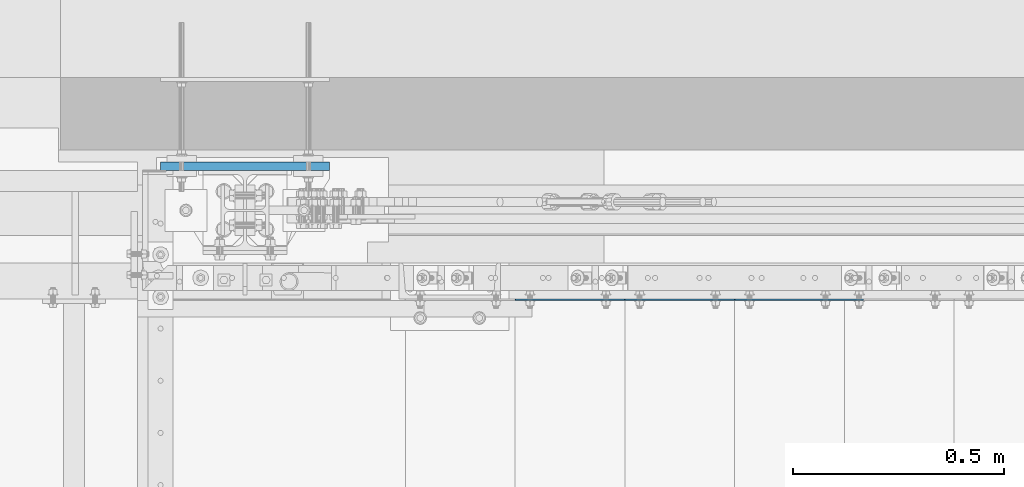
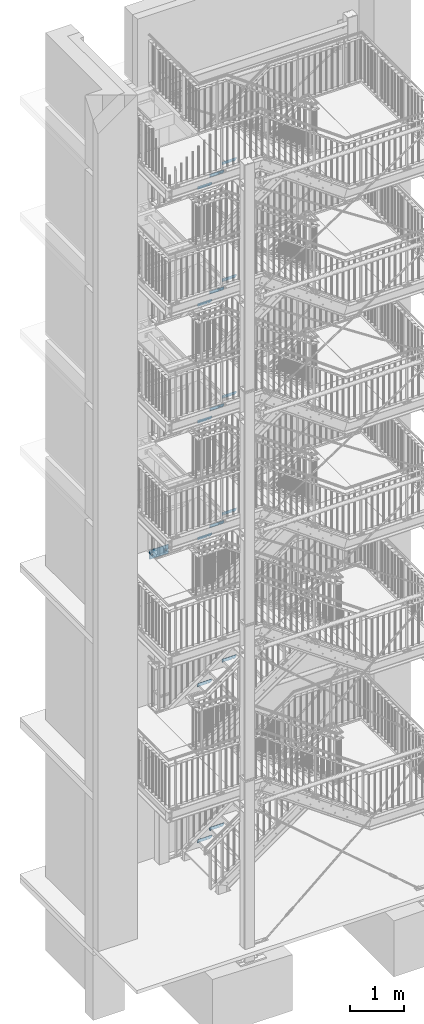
# One storey, part 190 of 821: 17 plates, 34 openings.
"""IFC2X3 building model written with IfcOpenShell, lengths in millimetres."""

from ifc_helpers import new_model, entity, si_unit, converted_unit, point, frame, frame_2d, origin, origin_with_axes, origin_2d_with_axis, place, context, project, spatial, polyline, circle_curve, line_curve, trimmed, segment, composite_curve, circle, outline, extrude, material, layer, layer_set, element, save


model = new_model("IFC2X3")

# Units and contexts
model_context = context("Model", 3, precision=1e-09, world=origin_with_axes())
ifc_project = project(units=[si_unit("LENGTHUNIT", "METRE", prefix="MILLI"), si_unit("AREAUNIT", "SQUARE_METRE"), si_unit("VOLUMEUNIT", "CUBIC_METRE"), converted_unit("PLANEANGLEUNIT", "DEGREE", entity("IfcPlaneAngleMeasure", 0.01745329), si_unit("PLANEANGLEUNIT", "RADIAN"), dimensions=[0, 0, 0, 0, 0, 0, 0])], contexts=[model_context])

# Site, building, storey
site_placement = place(None, origin_with_axes())
site = spatial("IfcSite", under=ifc_project, at=site_placement, Name="Cnopf'sche Kinderklinik", CompositionType="ELEMENT")
building_placement = place(site_placement, origin_with_axes())
building = spatial("IfcBuilding", under=site, at=building_placement, Name="Struktur 1", CompositionType="ELEMENT")
storey_placement = place(building_placement, origin_with_axes())
storey = spatial("IfcBuildingStorey", under=building, at=storey_placement, Name="Default Storey", CompositionType="ELEMENT", Elevation=0.0)

# Plate, openings
ifc_material = material(Name="S235JR")
ifc_layer_1 = layer(ifc_material, 3.0)
ifc_layer_set_1 = layer_set([ifc_layer_1], Name="S235JR")
plate_1_placement = place(None, frame((5756.713402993, 7306.736971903, 10367.2857148), z_axis=(0.0, -1.0, 0.0), x_axis=(0.0, 0.0, -1.0)))
plate_1 = element("IfcPlate", 1, at=plate_1_placement, inside=storey, material=ifc_layer_set_1, Name="Grate_Step#9", ObjectType="Grate_Step#9", context=model_context, shape_type="SweptSolid", body=[
    extrude(outline(polyline([(0.0, 0.0), (70.0, 0.0), (70.0, 275.0), (40.0, 305.0), (0.0, 305.0), (0.0, 0.0)])), origin_with_axes(), (0.0, 0.0, 1.0), 3.0),
])
opening_1_placement = place(plate_1_placement, frame((55.0, 215.0, 3.5), z_axis=(0.0, 0.0, -1.0), x_axis=(0.0, 1.0, 0.0)))
element("IfcOpeningElement", 2, at=opening_1_placement, cuts=plate_1, ObjectType="Opening", context=model_context, shape_type="SweptSolid", body=[
    extrude(outline(composite_curve([segment(trimmed(line_curve((-9.5, -7.001), (1.0, 0.0), 19.0), [point((-9.5, -7.001))], [point((9.5, -7.001))], True, "CARTESIAN"), True, "CONTINUOUS"), segment(trimmed(circle_curve(frame_2d((9.5, 0.0), x_axis=(1.0, 0.0)), 7.001), [point((9.5, -7.001))], [point((9.5, 7.001))], True, "CARTESIAN"), True, "CONTINUOUS"), segment(trimmed(line_curve((9.5, 7.001), (-1.0, 0.0), 19.0), [point((9.5, 7.001))], [point((-9.5, 7.001))], True, "CARTESIAN"), True, "CONTINUOUS"), segment(trimmed(circle_curve(frame_2d((-9.5, 0.0), x_axis=(1.0, 0.0)), 7.001), [point((-9.5, 7.001))], [point((-9.5, -7.001))], True, "CARTESIAN"), True, "CONTINUOUS")], self_intersect=False)), origin(), (0.0, 0.0, 1.0), 4.0),
])
opening_2_placement = place(plate_1_placement, frame((55.0, 35.0, 3.5), z_axis=(0.0, 0.0, -1.0), x_axis=(0.0, 1.0, 0.0)))
element("IfcOpeningElement", 3, at=opening_2_placement, cuts=plate_1, ObjectType="Opening", context=model_context, shape_type="SweptSolid", body=[
    extrude(circle(Radius=7.001, at=origin_2d_with_axis()), origin(), (0.0, 0.0, 1.0), 4.0),
])

plate_2_placement = place(None, frame((5496.713402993, 7306.736971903, 10179.6428577), z_axis=(0.0, -1.0, 0.0), x_axis=(0.0, 0.0, -1.0)))
plate_2 = element("IfcPlate", 4, at=plate_2_placement, inside=storey, material=ifc_layer_set_1, Name="Grate_Step#2", ObjectType="Grate_Step#2", context=model_context, shape_type="SweptSolid", body=[
    extrude(outline(polyline([(0.0, 0.0), (70.0, 0.0), (70.0, 275.0), (40.0, 305.0), (0.0, 305.0), (0.0, 0.0)])), origin_with_axes(), (0.0, 0.0, 1.0), 3.0),
])
opening_3_placement = place(plate_2_placement, frame((55.0, 215.0, 3.5), z_axis=(0.0, 0.0, -1.0), x_axis=(0.0, 1.0, 0.0)))
element("IfcOpeningElement", 5, at=opening_3_placement, cuts=plate_2, ObjectType="Opening", context=model_context, shape_type="SweptSolid", body=[
    extrude(outline(composite_curve([segment(trimmed(line_curve((-9.5, -7.001), (1.0, 0.0), 19.0), [point((-9.5, -7.001))], [point((9.5, -7.001))], True, "CARTESIAN"), True, "CONTINUOUS"), segment(trimmed(circle_curve(frame_2d((9.5, 0.0), x_axis=(1.0, 0.0)), 7.001), [point((9.5, -7.001))], [point((9.5, 7.001))], True, "CARTESIAN"), True, "CONTINUOUS"), segment(trimmed(line_curve((9.5, 7.001), (-1.0, 0.0), 19.0), [point((9.5, 7.001))], [point((-9.5, 7.001))], True, "CARTESIAN"), True, "CONTINUOUS"), segment(trimmed(circle_curve(frame_2d((-9.5, 0.0), x_axis=(1.0, 0.0)), 7.001), [point((-9.5, 7.001))], [point((-9.5, -7.001))], True, "CARTESIAN"), True, "CONTINUOUS")], self_intersect=False)), origin(), (0.0, 0.0, 1.0), 4.0),
])
opening_4_placement = place(plate_2_placement, frame((55.0, 35.0, 3.5), z_axis=(0.0, 0.0, -1.0), x_axis=(0.0, 1.0, 0.0)))
element("IfcOpeningElement", 6, at=opening_4_placement, cuts=plate_2, ObjectType="Opening", context=model_context, shape_type="SweptSolid", body=[
    extrude(circle(Radius=7.001, at=origin_2d_with_axis()), origin(), (0.0, 0.0, 1.0), 4.0),
])

plate_3_placement = place(None, frame((6016.713402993, 7306.736971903, 10554.9285719), z_axis=(0.0, -1.0, 0.0), x_axis=(0.0, 0.0, -1.0)))
plate_3 = element("IfcPlate", 7, at=plate_3_placement, inside=storey, material=ifc_layer_set_1, Name="Grate_Step#16", ObjectType="Grate_Step#16", context=model_context, shape_type="SweptSolid", body=[
    extrude(outline(polyline([(0.0, 0.0), (70.0, 0.0), (70.0, 275.0), (40.0, 305.0), (0.0, 305.0), (0.0, 0.0)])), origin_with_axes(), (0.0, 0.0, 1.0), 3.0),
])
opening_5_placement = place(plate_3_placement, frame((55.0, 35.0, 3.5), z_axis=(0.0, 0.0, -1.0), x_axis=(0.0, 1.0, 0.0)))
element("IfcOpeningElement", 8, at=opening_5_placement, cuts=plate_3, ObjectType="Opening", context=model_context, shape_type="SweptSolid", body=[
    extrude(circle(Radius=7.001, at=origin_2d_with_axis()), origin(), (0.0, 0.0, 1.0), 4.0),
])
opening_6_placement = place(plate_3_placement, frame((55.0, 215.0, 3.5), z_axis=(0.0, 0.0, -1.0), x_axis=(0.0, 1.0, 0.0)))
element("IfcOpeningElement", 9, at=opening_6_placement, cuts=plate_3, ObjectType="Opening", context=model_context, shape_type="SweptSolid", body=[
    extrude(outline(composite_curve([segment(trimmed(line_curve((-9.5, -7.001), (1.0, 0.0), 19.0), [point((-9.5, -7.001))], [point((9.5, -7.001))], True, "CARTESIAN"), True, "CONTINUOUS"), segment(trimmed(circle_curve(frame_2d((9.5, 0.0), x_axis=(1.0, 0.0)), 7.001), [point((9.5, -7.001))], [point((9.5, 7.001))], True, "CARTESIAN"), True, "CONTINUOUS"), segment(trimmed(line_curve((9.5, 7.001), (-1.0, 0.0), 19.0), [point((9.5, 7.001))], [point((-9.5, 7.001))], True, "CARTESIAN"), True, "CONTINUOUS"), segment(trimmed(circle_curve(frame_2d((-9.5, 0.0), x_axis=(1.0, 0.0)), 7.001), [point((-9.5, 7.001))], [point((-9.5, -7.001))], True, "CARTESIAN"), True, "CONTINUOUS")], self_intersect=False)), origin(), (0.0, 0.0, 1.0), 4.0),
])

plate_4_placement = place(None, frame((6016.713402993, 7306.736971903, 7924.0), z_axis=(0.0, -1.0, 0.0), x_axis=(0.0, 0.0, -1.0)))
plate_4 = element("IfcPlate", 10, at=plate_4_placement, inside=storey, material=ifc_layer_set_1, Name="Grate_Step#16", ObjectType="Grate_Step#16", context=model_context, shape_type="SweptSolid", body=[
    extrude(outline(polyline([(0.0, 0.0), (70.0, 0.0), (70.0, 275.0), (40.0, 305.0), (0.0, 305.0), (0.0, 0.0)])), origin_with_axes(), (0.0, 0.0, 1.0), 3.0),
])
opening_7_placement = place(plate_4_placement, frame((55.0, 215.0, 3.5), z_axis=(0.0, 0.0, -1.0), x_axis=(0.0, 1.0, 0.0)))
element("IfcOpeningElement", 11, at=opening_7_placement, cuts=plate_4, ObjectType="Opening", context=model_context, shape_type="SweptSolid", body=[
    extrude(outline(composite_curve([segment(trimmed(line_curve((-9.5, -7.001), (1.0, 0.0), 19.0), [point((-9.5, -7.001))], [point((9.5, -7.001))], True, "CARTESIAN"), True, "CONTINUOUS"), segment(trimmed(circle_curve(frame_2d((9.5, 0.0), x_axis=(1.0, 0.0)), 7.001), [point((9.5, -7.001))], [point((9.5, 7.001))], True, "CARTESIAN"), True, "CONTINUOUS"), segment(trimmed(line_curve((9.5, 7.001), (-1.0, 0.0), 19.0), [point((9.5, 7.001))], [point((-9.5, 7.001))], True, "CARTESIAN"), True, "CONTINUOUS"), segment(trimmed(circle_curve(frame_2d((-9.5, 0.0), x_axis=(1.0, 0.0)), 7.001), [point((-9.5, 7.001))], [point((-9.5, -7.001))], True, "CARTESIAN"), True, "CONTINUOUS")], self_intersect=False)), origin(), (0.0, 0.0, 1.0), 4.0),
])
opening_8_placement = place(plate_4_placement, frame((55.0, 35.0, 3.5), z_axis=(0.0, 0.0, -1.0), x_axis=(0.0, 1.0, 0.0)))
element("IfcOpeningElement", 12, at=opening_8_placement, cuts=plate_4, ObjectType="Opening", context=model_context, shape_type="SweptSolid", body=[
    extrude(circle(Radius=7.001, at=origin_2d_with_axis()), origin(), (0.0, 0.0, 1.0), 4.0),
])

plate_5_placement = place(None, frame((5496.713402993, 7306.736971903, 7548.0), z_axis=(0.0, -1.0, 0.0), x_axis=(0.0, 0.0, -1.0)))
plate_5 = element("IfcPlate", 13, at=plate_5_placement, inside=storey, material=ifc_layer_set_1, Name="Grate_Step#2", ObjectType="Grate_Step#2", context=model_context, shape_type="SweptSolid", body=[
    extrude(outline(polyline([(0.0, 0.0), (70.0, 0.0), (70.0, 275.0), (40.0, 305.0), (0.0, 305.0), (0.0, 0.0)])), origin_with_axes(), (0.0, 0.0, 1.0), 3.0),
])
opening_9_placement = place(plate_5_placement, frame((55.0, 35.0, 3.5), z_axis=(0.0, 0.0, -1.0), x_axis=(0.0, 1.0, 0.0)))
element("IfcOpeningElement", 14, at=opening_9_placement, cuts=plate_5, ObjectType="Opening", context=model_context, shape_type="SweptSolid", body=[
    extrude(circle(Radius=7.001, at=origin_2d_with_axis()), origin(), (0.0, 0.0, 1.0), 4.0),
])
opening_10_placement = place(plate_5_placement, frame((55.0, 215.0, 3.5), z_axis=(0.0, 0.0, -1.0), x_axis=(0.0, 1.0, 0.0)))
element("IfcOpeningElement", 15, at=opening_10_placement, cuts=plate_5, ObjectType="Opening", context=model_context, shape_type="SweptSolid", body=[
    extrude(outline(composite_curve([segment(trimmed(line_curve((-9.5, -7.001), (1.0, 0.0), 19.0), [point((-9.5, -7.001))], [point((9.5, -7.001))], True, "CARTESIAN"), True, "CONTINUOUS"), segment(trimmed(circle_curve(frame_2d((9.5, 0.0), x_axis=(1.0, 0.0)), 7.001), [point((9.5, -7.001))], [point((9.5, 7.001))], True, "CARTESIAN"), True, "CONTINUOUS"), segment(trimmed(line_curve((9.5, 7.001), (-1.0, 0.0), 19.0), [point((9.5, 7.001))], [point((-9.5, 7.001))], True, "CARTESIAN"), True, "CONTINUOUS"), segment(trimmed(circle_curve(frame_2d((-9.5, 0.0), x_axis=(1.0, 0.0)), 7.001), [point((-9.5, 7.001))], [point((-9.5, -7.001))], True, "CARTESIAN"), True, "CONTINUOUS")], self_intersect=False)), origin(), (0.0, 0.0, 1.0), 4.0),
])

plate_6_placement = place(None, frame((5756.713402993, 7306.736971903, 7736.0), z_axis=(0.0, -1.0, 0.0), x_axis=(0.0, 0.0, -1.0)))
plate_6 = element("IfcPlate", 16, at=plate_6_placement, inside=storey, material=ifc_layer_set_1, Name="Grate_Step#9", ObjectType="Grate_Step#9", context=model_context, shape_type="SweptSolid", body=[
    extrude(outline(polyline([(0.0, 0.0), (70.0, 0.0), (70.0, 275.0), (40.0, 305.0), (0.0, 305.0), (0.0, 0.0)])), origin_with_axes(), (0.0, 0.0, 1.0), 3.0),
])
opening_11_placement = place(plate_6_placement, frame((55.0, 215.0, 3.5), z_axis=(0.0, 0.0, -1.0), x_axis=(0.0, 1.0, 0.0)))
element("IfcOpeningElement", 17, at=opening_11_placement, cuts=plate_6, ObjectType="Opening", context=model_context, shape_type="SweptSolid", body=[
    extrude(outline(composite_curve([segment(trimmed(line_curve((-9.5, -7.001), (1.0, 0.0), 19.0), [point((-9.5, -7.001))], [point((9.5, -7.001))], True, "CARTESIAN"), True, "CONTINUOUS"), segment(trimmed(circle_curve(frame_2d((9.5, 0.0), x_axis=(1.0, 0.0)), 7.001), [point((9.5, -7.001))], [point((9.5, 7.001))], True, "CARTESIAN"), True, "CONTINUOUS"), segment(trimmed(line_curve((9.5, 7.001), (-1.0, 0.0), 19.0), [point((9.5, 7.001))], [point((-9.5, 7.001))], True, "CARTESIAN"), True, "CONTINUOUS"), segment(trimmed(circle_curve(frame_2d((-9.5, 0.0), x_axis=(1.0, 0.0)), 7.001), [point((-9.5, 7.001))], [point((-9.5, -7.001))], True, "CARTESIAN"), True, "CONTINUOUS")], self_intersect=False)), origin(), (0.0, 0.0, 1.0), 4.0),
])
opening_12_placement = place(plate_6_placement, frame((55.0, 35.0, 3.5), z_axis=(0.0, 0.0, -1.0), x_axis=(0.0, 1.0, 0.0)))
element("IfcOpeningElement", 18, at=opening_12_placement, cuts=plate_6, ObjectType="Opening", context=model_context, shape_type="SweptSolid", body=[
    extrude(circle(Radius=7.001, at=origin_2d_with_axis()), origin(), (0.0, 0.0, 1.0), 4.0),
])

plate_7_placement = place(None, frame((6016.713402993, 7306.736971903, 13183.6428573), z_axis=(0.0, -1.0, 0.0), x_axis=(0.0, 0.0, -1.0)))
plate_7 = element("IfcPlate", 19, at=plate_7_placement, inside=storey, material=ifc_layer_set_1, Name="Grate_Step#16", ObjectType="Grate_Step#16", context=model_context, shape_type="SweptSolid", body=[
    extrude(outline(polyline([(0.0, 0.0), (70.0, 0.0), (70.0, 275.0), (40.0, 305.0), (0.0, 305.0), (0.0, 0.0)])), origin_with_axes(), (0.0, 0.0, 1.0), 3.0),
])
opening_13_placement = place(plate_7_placement, frame((55.0, 35.0, 3.5), z_axis=(0.0, 0.0, -1.0), x_axis=(0.0, 1.0, 0.0)))
element("IfcOpeningElement", 20, at=opening_13_placement, cuts=plate_7, ObjectType="Opening", context=model_context, shape_type="SweptSolid", body=[
    extrude(circle(Radius=7.001, at=origin_2d_with_axis()), origin(), (0.0, 0.0, 1.0), 4.0),
])
opening_14_placement = place(plate_7_placement, frame((55.0, 215.0, 3.5), z_axis=(0.0, 0.0, -1.0), x_axis=(0.0, 1.0, 0.0)))
element("IfcOpeningElement", 21, at=opening_14_placement, cuts=plate_7, ObjectType="Opening", context=model_context, shape_type="SweptSolid", body=[
    extrude(outline(composite_curve([segment(trimmed(line_curve((-9.5, -7.001), (1.0, 0.0), 19.0), [point((-9.5, -7.001))], [point((9.5, -7.001))], True, "CARTESIAN"), True, "CONTINUOUS"), segment(trimmed(circle_curve(frame_2d((9.5, 0.0), x_axis=(1.0, 0.0)), 7.001), [point((9.5, -7.001))], [point((9.5, 7.001))], True, "CARTESIAN"), True, "CONTINUOUS"), segment(trimmed(line_curve((9.5, 7.001), (-1.0, 0.0), 19.0), [point((9.5, 7.001))], [point((-9.5, 7.001))], True, "CARTESIAN"), True, "CONTINUOUS"), segment(trimmed(circle_curve(frame_2d((-9.5, 0.0), x_axis=(1.0, 0.0)), 7.001), [point((-9.5, 7.001))], [point((-9.5, -7.001))], True, "CARTESIAN"), True, "CONTINUOUS")], self_intersect=False)), origin(), (0.0, 0.0, 1.0), 4.0),
])

plate_8_placement = place(None, frame((5496.713402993, 7306.736971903, 12807.2142859), z_axis=(0.0, -1.0, 0.0), x_axis=(0.0, 0.0, -1.0)))
plate_8 = element("IfcPlate", 22, at=plate_8_placement, inside=storey, material=ifc_layer_set_1, Name="Grate_Step#2", ObjectType="Grate_Step#2", context=model_context, shape_type="SweptSolid", body=[
    extrude(outline(polyline([(0.0, 0.0), (70.0, 0.0), (70.0, 275.0), (40.0, 305.0), (0.0, 305.0), (0.0, 0.0)])), origin_with_axes(), (0.0, 0.0, 1.0), 3.0),
])
opening_15_placement = place(plate_8_placement, frame((55.0, 35.0, 3.5), z_axis=(0.0, 0.0, -1.0), x_axis=(0.0, 1.0, 0.0)))
element("IfcOpeningElement", 23, at=opening_15_placement, cuts=plate_8, ObjectType="Opening", context=model_context, shape_type="SweptSolid", body=[
    extrude(circle(Radius=7.001, at=origin_2d_with_axis()), origin(), (0.0, 0.0, 1.0), 4.0),
])
opening_16_placement = place(plate_8_placement, frame((55.0, 215.0, 3.5), z_axis=(0.0, 0.0, -1.0), x_axis=(0.0, 1.0, 0.0)))
element("IfcOpeningElement", 24, at=opening_16_placement, cuts=plate_8, ObjectType="Opening", context=model_context, shape_type="SweptSolid", body=[
    extrude(outline(composite_curve([segment(trimmed(line_curve((-9.5, -7.001), (1.0, 0.0), 19.0), [point((-9.5, -7.001))], [point((9.5, -7.001))], True, "CARTESIAN"), True, "CONTINUOUS"), segment(trimmed(circle_curve(frame_2d((9.5, 0.0), x_axis=(1.0, 0.0)), 7.001), [point((9.5, -7.001))], [point((9.5, 7.001))], True, "CARTESIAN"), True, "CONTINUOUS"), segment(trimmed(line_curve((9.5, 7.001), (-1.0, 0.0), 19.0), [point((9.5, 7.001))], [point((-9.5, 7.001))], True, "CARTESIAN"), True, "CONTINUOUS"), segment(trimmed(circle_curve(frame_2d((-9.5, 0.0), x_axis=(1.0, 0.0)), 7.001), [point((-9.5, 7.001))], [point((-9.5, -7.001))], True, "CARTESIAN"), True, "CONTINUOUS")], self_intersect=False)), origin(), (0.0, 0.0, 1.0), 4.0),
])

plate_9_placement = place(None, frame((5756.713402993, 7306.736971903, 12995.4285716), z_axis=(0.0, -1.0, 0.0), x_axis=(0.0, 0.0, -1.0)))
plate_9 = element("IfcPlate", 25, at=plate_9_placement, inside=storey, material=ifc_layer_set_1, Name="Grate_Step#9", ObjectType="Grate_Step#9", context=model_context, shape_type="SweptSolid", body=[
    extrude(outline(polyline([(0.0, 0.0), (70.0, 0.0), (70.0, 275.0), (40.0, 305.0), (0.0, 305.0), (0.0, 0.0)])), origin_with_axes(), (0.0, 0.0, 1.0), 3.0),
])
opening_17_placement = place(plate_9_placement, frame((55.0, 35.0, 3.5), z_axis=(0.0, 0.0, -1.0), x_axis=(0.0, 1.0, 0.0)))
element("IfcOpeningElement", 26, at=opening_17_placement, cuts=plate_9, ObjectType="Opening", context=model_context, shape_type="SweptSolid", body=[
    extrude(circle(Radius=7.001, at=origin_2d_with_axis()), origin(), (0.0, 0.0, 1.0), 4.0),
])
opening_18_placement = place(plate_9_placement, frame((55.0, 215.0, 3.5), z_axis=(0.0, 0.0, -1.0), x_axis=(0.0, 1.0, 0.0)))
element("IfcOpeningElement", 27, at=opening_18_placement, cuts=plate_9, ObjectType="Opening", context=model_context, shape_type="SweptSolid", body=[
    extrude(outline(composite_curve([segment(trimmed(line_curve((-9.5, -7.001), (1.0, 0.0), 19.0), [point((-9.5, -7.001))], [point((9.5, -7.001))], True, "CARTESIAN"), True, "CONTINUOUS"), segment(trimmed(circle_curve(frame_2d((9.5, 0.0), x_axis=(1.0, 0.0)), 7.001), [point((9.5, -7.001))], [point((9.5, 7.001))], True, "CARTESIAN"), True, "CONTINUOUS"), segment(trimmed(line_curve((9.5, 7.001), (-1.0, 0.0), 19.0), [point((9.5, 7.001))], [point((-9.5, 7.001))], True, "CARTESIAN"), True, "CONTINUOUS"), segment(trimmed(circle_curve(frame_2d((-9.5, 0.0), x_axis=(1.0, 0.0)), 7.001), [point((-9.5, 7.001))], [point((-9.5, -7.001))], True, "CARTESIAN"), True, "CONTINUOUS")], self_intersect=False)), origin(), (0.0, 0.0, 1.0), 4.0),
])

plate_10_placement = place(None, frame((6016.713402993, 7306.736971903, 15815.4285719), z_axis=(0.0, -1.0, 0.0), x_axis=(0.0, 0.0, -1.0)))
plate_10 = element("IfcPlate", 28, at=plate_10_placement, inside=storey, material=ifc_layer_set_1, Name="Grate_Step#16", ObjectType="Grate_Step#16", context=model_context, shape_type="SweptSolid", body=[
    extrude(outline(polyline([(0.0, 0.0), (70.0, 0.0), (70.0, 275.0), (40.0, 305.0), (0.0, 305.0), (0.0, 0.0)])), origin_with_axes(), (0.0, 0.0, 1.0), 3.0),
])
opening_19_placement = place(plate_10_placement, frame((55.0, 215.0, 3.5), z_axis=(0.0, 0.0, -1.0), x_axis=(0.0, 1.0, 0.0)))
element("IfcOpeningElement", 29, at=opening_19_placement, cuts=plate_10, ObjectType="Opening", context=model_context, shape_type="SweptSolid", body=[
    extrude(outline(composite_curve([segment(trimmed(line_curve((-9.5, -7.001), (1.0, 0.0), 19.0), [point((-9.5, -7.001))], [point((9.5, -7.001))], True, "CARTESIAN"), True, "CONTINUOUS"), segment(trimmed(circle_curve(frame_2d((9.5, 0.0), x_axis=(1.0, 0.0)), 7.001), [point((9.5, -7.001))], [point((9.5, 7.001))], True, "CARTESIAN"), True, "CONTINUOUS"), segment(trimmed(line_curve((9.5, 7.001), (-1.0, 0.0), 19.0), [point((9.5, 7.001))], [point((-9.5, 7.001))], True, "CARTESIAN"), True, "CONTINUOUS"), segment(trimmed(circle_curve(frame_2d((-9.5, 0.0), x_axis=(1.0, 0.0)), 7.001), [point((-9.5, 7.001))], [point((-9.5, -7.001))], True, "CARTESIAN"), True, "CONTINUOUS")], self_intersect=False)), origin(), (0.0, 0.0, 1.0), 4.0),
])
opening_20_placement = place(plate_10_placement, frame((55.0, 35.0, 3.5), z_axis=(0.0, 0.0, -1.0), x_axis=(0.0, 1.0, 0.0)))
element("IfcOpeningElement", 30, at=opening_20_placement, cuts=plate_10, ObjectType="Opening", context=model_context, shape_type="SweptSolid", body=[
    extrude(circle(Radius=7.001, at=origin_2d_with_axis()), origin(), (0.0, 0.0, 1.0), 4.0),
])

plate_11_placement = place(None, frame((5496.713402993, 7306.736971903, 15441.1428577), z_axis=(0.0, -1.0, 0.0), x_axis=(0.0, 0.0, -1.0)))
plate_11 = element("IfcPlate", 31, at=plate_11_placement, inside=storey, material=ifc_layer_set_1, Name="Grate_Step#2", ObjectType="Grate_Step#2", context=model_context, shape_type="SweptSolid", body=[
    extrude(outline(polyline([(0.0, 0.0), (70.0, 0.0), (70.0, 275.0), (40.0, 305.0), (0.0, 305.0), (0.0, 0.0)])), origin_with_axes(), (0.0, 0.0, 1.0), 3.0),
])
opening_21_placement = place(plate_11_placement, frame((55.0, 35.0, 3.5), z_axis=(0.0, 0.0, -1.0), x_axis=(0.0, 1.0, 0.0)))
element("IfcOpeningElement", 32, at=opening_21_placement, cuts=plate_11, ObjectType="Opening", context=model_context, shape_type="SweptSolid", body=[
    extrude(circle(Radius=7.001, at=origin_2d_with_axis()), origin(), (0.0, 0.0, 1.0), 4.0),
])
opening_22_placement = place(plate_11_placement, frame((55.0, 215.0, 3.5), z_axis=(0.0, 0.0, -1.0), x_axis=(0.0, 1.0, 0.0)))
element("IfcOpeningElement", 33, at=opening_22_placement, cuts=plate_11, ObjectType="Opening", context=model_context, shape_type="SweptSolid", body=[
    extrude(outline(composite_curve([segment(trimmed(line_curve((-9.5, -7.001), (1.0, 0.0), 19.0), [point((-9.5, -7.001))], [point((9.5, -7.001))], True, "CARTESIAN"), True, "CONTINUOUS"), segment(trimmed(circle_curve(frame_2d((9.5, 0.0), x_axis=(1.0, 0.0)), 7.001), [point((9.5, -7.001))], [point((9.5, 7.001))], True, "CARTESIAN"), True, "CONTINUOUS"), segment(trimmed(line_curve((9.5, 7.001), (-1.0, 0.0), 19.0), [point((9.5, 7.001))], [point((-9.5, 7.001))], True, "CARTESIAN"), True, "CONTINUOUS"), segment(trimmed(circle_curve(frame_2d((-9.5, 0.0), x_axis=(1.0, 0.0)), 7.001), [point((-9.5, 7.001))], [point((-9.5, -7.001))], True, "CARTESIAN"), True, "CONTINUOUS")], self_intersect=False)), origin(), (0.0, 0.0, 1.0), 4.0),
])

plate_12_placement = place(None, frame((5756.713402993, 7306.736971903, 15628.2857148), z_axis=(0.0, -1.0, 0.0), x_axis=(0.0, 0.0, -1.0)))
plate_12 = element("IfcPlate", 34, at=plate_12_placement, inside=storey, material=ifc_layer_set_1, Name="Grate_Step#9", ObjectType="Grate_Step#9", context=model_context, shape_type="SweptSolid", body=[
    extrude(outline(polyline([(0.0, 0.0), (70.0, 0.0), (70.0, 275.0), (40.0, 305.0), (0.0, 305.0), (0.0, 0.0)])), origin_with_axes(), (0.0, 0.0, 1.0), 3.0),
])
opening_23_placement = place(plate_12_placement, frame((55.0, 35.0, 3.5), z_axis=(0.0, 0.0, -1.0), x_axis=(0.0, 1.0, 0.0)))
element("IfcOpeningElement", 35, at=opening_23_placement, cuts=plate_12, ObjectType="Opening", context=model_context, shape_type="SweptSolid", body=[
    extrude(circle(Radius=7.001, at=origin_2d_with_axis()), origin(), (0.0, 0.0, 1.0), 4.0),
])
opening_24_placement = place(plate_12_placement, frame((55.0, 215.0, 3.5), z_axis=(0.0, 0.0, -1.0), x_axis=(0.0, 1.0, 0.0)))
element("IfcOpeningElement", 36, at=opening_24_placement, cuts=plate_12, ObjectType="Opening", context=model_context, shape_type="SweptSolid", body=[
    extrude(outline(composite_curve([segment(trimmed(line_curve((-9.5, -7.001), (1.0, 0.0), 19.0), [point((-9.5, -7.001))], [point((9.5, -7.001))], True, "CARTESIAN"), True, "CONTINUOUS"), segment(trimmed(circle_curve(frame_2d((9.5, 0.0), x_axis=(1.0, 0.0)), 7.001), [point((9.5, -7.001))], [point((9.5, 7.001))], True, "CARTESIAN"), True, "CONTINUOUS"), segment(trimmed(line_curve((9.5, 7.001), (-1.0, 0.0), 19.0), [point((9.5, 7.001))], [point((-9.5, 7.001))], True, "CARTESIAN"), True, "CONTINUOUS"), segment(trimmed(circle_curve(frame_2d((-9.5, 0.0), x_axis=(1.0, 0.0)), 7.001), [point((-9.5, 7.001))], [point((-9.5, -7.001))], True, "CARTESIAN"), True, "CONTINUOUS")], self_intersect=False)), origin(), (0.0, 0.0, 1.0), 4.0),
])

plate_13_placement = place(None, frame((5756.713402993, 7306.736971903, 925.3157888), z_axis=(0.0, -1.0, 0.0), x_axis=(0.0, 0.0, -1.0)))
plate_13 = element("IfcPlate", 37, at=plate_13_placement, inside=storey, material=ifc_layer_set_1, Name="Grate_Step#16", ObjectType="Grate_Step#16", context=model_context, shape_type="SweptSolid", body=[
    extrude(outline(polyline([(0.0, 0.0), (70.0, 0.0), (70.0, 275.0), (40.0, 305.0), (0.0, 305.0), (0.0, 0.0)])), origin_with_axes(), (0.0, 0.0, 1.0), 3.0),
])
opening_25_placement = place(plate_13_placement, frame((55.0, 35.0, 3.5), z_axis=(0.0, 0.0, -1.0), x_axis=(0.0, 1.0, 0.0)))
element("IfcOpeningElement", 38, at=opening_25_placement, cuts=plate_13, ObjectType="Opening", context=model_context, shape_type="SweptSolid", body=[
    extrude(circle(Radius=7.001, at=origin_2d_with_axis()), origin(), (0.0, 0.0, 1.0), 4.0),
])
opening_26_placement = place(plate_13_placement, frame((55.0, 215.0, 3.5), z_axis=(0.0, 0.0, -1.0), x_axis=(0.0, 1.0, 0.0)))
element("IfcOpeningElement", 39, at=opening_26_placement, cuts=plate_13, ObjectType="Opening", context=model_context, shape_type="SweptSolid", body=[
    extrude(outline(composite_curve([segment(trimmed(line_curve((-9.5, -7.001), (1.0, 0.0), 19.0), [point((-9.5, -7.001))], [point((9.5, -7.001))], True, "CARTESIAN"), True, "CONTINUOUS"), segment(trimmed(circle_curve(frame_2d((9.5, 0.0), x_axis=(1.0, 0.0)), 7.001), [point((9.5, -7.001))], [point((9.5, 7.001))], True, "CARTESIAN"), True, "CONTINUOUS"), segment(trimmed(line_curve((9.5, 7.001), (-1.0, 0.0), 19.0), [point((9.5, 7.001))], [point((-9.5, 7.001))], True, "CARTESIAN"), True, "CONTINUOUS"), segment(trimmed(circle_curve(frame_2d((-9.5, 0.0), x_axis=(1.0, 0.0)), 7.001), [point((-9.5, 7.001))], [point((-9.5, -7.001))], True, "CARTESIAN"), True, "CONTINUOUS")], self_intersect=False)), origin(), (0.0, 0.0, 1.0), 4.0),
])

plate_14_placement = place(None, frame((5496.713402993, 7306.736971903, 740.2105256), z_axis=(0.0, -1.0, 0.0), x_axis=(0.0, 0.0, -1.0)))
plate_14 = element("IfcPlate", 40, at=plate_14_placement, inside=storey, material=ifc_layer_set_1, Name="Grate_Step#9", ObjectType="Grate_Step#9", context=model_context, shape_type="SweptSolid", body=[
    extrude(outline(polyline([(0.0, 0.0), (70.0, 0.0), (70.0, 275.0), (40.0, 305.0), (0.0, 305.0), (0.0, 0.0)])), origin_with_axes(), (0.0, 0.0, 1.0), 3.0),
])
opening_27_placement = place(plate_14_placement, frame((55.0, 35.0, 3.5), z_axis=(0.0, 0.0, -1.0), x_axis=(0.0, 1.0, 0.0)))
element("IfcOpeningElement", 41, at=opening_27_placement, cuts=plate_14, ObjectType="Opening", context=model_context, shape_type="SweptSolid", body=[
    extrude(circle(Radius=7.001, at=origin_2d_with_axis()), origin(), (0.0, 0.0, 1.0), 4.0),
])
opening_28_placement = place(plate_14_placement, frame((55.0, 215.0, 3.5), z_axis=(0.0, 0.0, -1.0), x_axis=(0.0, 1.0, 0.0)))
element("IfcOpeningElement", 42, at=opening_28_placement, cuts=plate_14, ObjectType="Opening", context=model_context, shape_type="SweptSolid", body=[
    extrude(outline(composite_curve([segment(trimmed(line_curve((-9.5, -7.001), (1.0, 0.0), 19.0), [point((-9.5, -7.001))], [point((9.5, -7.001))], True, "CARTESIAN"), True, "CONTINUOUS"), segment(trimmed(circle_curve(frame_2d((9.5, 0.0), x_axis=(1.0, 0.0)), 7.001), [point((9.5, -7.001))], [point((9.5, 7.001))], True, "CARTESIAN"), True, "CONTINUOUS"), segment(trimmed(line_curve((9.5, 7.001), (-1.0, 0.0), 19.0), [point((9.5, 7.001))], [point((-9.5, 7.001))], True, "CARTESIAN"), True, "CONTINUOUS"), segment(trimmed(circle_curve(frame_2d((-9.5, 0.0), x_axis=(1.0, 0.0)), 7.001), [point((-9.5, 7.001))], [point((-9.5, -7.001))], True, "CARTESIAN"), True, "CONTINUOUS")], self_intersect=False)), origin(), (0.0, 0.0, 1.0), 4.0),
])

plate_15_placement = place(None, frame((5496.713402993, 7306.736971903, 4252.5789471), z_axis=(0.0, -1.0, 0.0), x_axis=(0.0, 0.0, -1.0)))
plate_15 = element("IfcPlate", 43, at=plate_15_placement, inside=storey, material=ifc_layer_set_1, Name="Grate_Step#9", ObjectType="Grate_Step#9", context=model_context, shape_type="SweptSolid", body=[
    extrude(outline(polyline([(0.0, 0.0), (70.0, 0.0), (70.0, 275.0), (40.0, 305.0), (0.0, 305.0), (0.0, 0.0)])), origin_with_axes(), (0.0, 0.0, 1.0), 3.0),
])
opening_29_placement = place(plate_15_placement, frame((55.0, 35.0, 3.5), z_axis=(0.0, 0.0, -1.0), x_axis=(0.0, 1.0, 0.0)))
element("IfcOpeningElement", 44, at=opening_29_placement, cuts=plate_15, ObjectType="Opening", context=model_context, shape_type="SweptSolid", body=[
    extrude(circle(Radius=7.001, at=origin_2d_with_axis()), origin(), (0.0, 0.0, 1.0), 4.0),
])
opening_30_placement = place(plate_15_placement, frame((55.0, 215.0, 3.5), z_axis=(0.0, 0.0, -1.0), x_axis=(0.0, 1.0, 0.0)))
element("IfcOpeningElement", 45, at=opening_30_placement, cuts=plate_15, ObjectType="Opening", context=model_context, shape_type="SweptSolid", body=[
    extrude(outline(composite_curve([segment(trimmed(line_curve((-9.5, -7.001), (1.0, 0.0), 19.0), [point((-9.5, -7.001))], [point((9.5, -7.001))], True, "CARTESIAN"), True, "CONTINUOUS"), segment(trimmed(circle_curve(frame_2d((9.5, 0.0), x_axis=(1.0, 0.0)), 7.001), [point((9.5, -7.001))], [point((9.5, 7.001))], True, "CARTESIAN"), True, "CONTINUOUS"), segment(trimmed(line_curve((9.5, 7.001), (-1.0, 0.0), 19.0), [point((9.5, 7.001))], [point((-9.5, 7.001))], True, "CARTESIAN"), True, "CONTINUOUS"), segment(trimmed(circle_curve(frame_2d((-9.5, 0.0), x_axis=(1.0, 0.0)), 7.001), [point((-9.5, 7.001))], [point((-9.5, -7.001))], True, "CARTESIAN"), True, "CONTINUOUS")], self_intersect=False)), origin(), (0.0, 0.0, 1.0), 4.0),
])

plate_16_placement = place(None, frame((6016.713402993, 7306.736971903, 4618.1578945), z_axis=(0.0, -1.0, 0.0), x_axis=(0.0, 0.0, -1.0)))
plate_16 = element("IfcPlate", 46, at=plate_16_placement, inside=storey, material=ifc_layer_set_1, Name="Grate_Step#23", ObjectType="Grate_Step#23", context=model_context, shape_type="SweptSolid", body=[
    extrude(outline(polyline([(0.0, 0.0), (70.0, 0.0), (70.0, 275.0), (40.0, 305.0), (0.0, 305.0), (0.0, 0.0)])), origin_with_axes(), (0.0, 0.0, 1.0), 3.0),
])
opening_31_placement = place(plate_16_placement, frame((55.0, 215.0, 3.5), z_axis=(0.0, 0.0, -1.0), x_axis=(0.0, 1.0, 0.0)))
element("IfcOpeningElement", 47, at=opening_31_placement, cuts=plate_16, ObjectType="Opening", context=model_context, shape_type="SweptSolid", body=[
    extrude(outline(composite_curve([segment(trimmed(line_curve((-9.5, -7.001), (1.0, 0.0), 19.0), [point((-9.5, -7.001))], [point((9.5, -7.001))], True, "CARTESIAN"), True, "CONTINUOUS"), segment(trimmed(circle_curve(frame_2d((9.5, 0.0), x_axis=(1.0, 0.0)), 7.001), [point((9.5, -7.001))], [point((9.5, 7.001))], True, "CARTESIAN"), True, "CONTINUOUS"), segment(trimmed(line_curve((9.5, 7.001), (-1.0, 0.0), 19.0), [point((9.5, 7.001))], [point((-9.5, 7.001))], True, "CARTESIAN"), True, "CONTINUOUS"), segment(trimmed(circle_curve(frame_2d((-9.5, 0.0), x_axis=(1.0, 0.0)), 7.001), [point((-9.5, 7.001))], [point((-9.5, -7.001))], True, "CARTESIAN"), True, "CONTINUOUS")], self_intersect=False)), origin(), (0.0, 0.0, 1.0), 4.0),
])
opening_32_placement = place(plate_16_placement, frame((55.0, 35.0, 3.5), z_axis=(0.0, 0.0, -1.0), x_axis=(0.0, 1.0, 0.0)))
element("IfcOpeningElement", 48, at=opening_32_placement, cuts=plate_16, ObjectType="Opening", context=model_context, shape_type="SweptSolid", body=[
    extrude(circle(Radius=7.001, at=origin_2d_with_axis()), origin(), (0.0, 0.0, 1.0), 4.0),
])

ifc_layer_2 = layer(ifc_material, 20.0)
ifc_layer_set_2 = layer_set([ifc_layer_2], Name="S235JR")
plate_17_placement = place(None, frame((4856.713402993, 7631.736971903, 7255.000000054), z_axis=(0.0, -1.0, 0.0), x_axis=(1.0, 0.0, 0.0)))
plate_17 = element("IfcPlate", 49, at=plate_17_placement, inside=storey, material=ifc_layer_set_2, Name="-", ObjectType="-", context=model_context, shape_type="SweptSolid", body=[
    extrude(outline(polyline([(-200.0, -100.0), (200.0, -100.0), (200.0, 100.0), (-200.0, 100.0), (-200.0, -100.0)])), origin_with_axes(), (0.0, 0.0, 1.0), 20.0),
])
opening_33_placement = place(plate_17_placement, frame((-3.4e-08, -5.4e-08, -0.5), z_axis=(0.0, 0.0, 1.0), x_axis=(1.0, 0.0, 0.0)))
element("IfcOpeningElement", 50, at=opening_33_placement, cuts=plate_17, ObjectType="Opening", context=model_context, shape_type="SweptSolid", body=[
    extrude(circle(Radius=20.001, at=frame_2d((150.0, 0.0), x_axis=(1.0, 0.0))), origin(), (0.0, 0.0, 1.0), 21.0),
])
opening_34_placement = place(plate_17_placement, frame((-3.4e-08, -5.4e-08, -0.5), z_axis=(0.0, 0.0, 1.0), x_axis=(1.0, 0.0, 0.0)))
element("IfcOpeningElement", 51, at=opening_34_placement, cuts=plate_17, ObjectType="Opening", context=model_context, shape_type="SweptSolid", body=[
    extrude(circle(Radius=20.001, at=frame_2d((-150.0, 0.0), x_axis=(1.0, 0.0))), origin(), (0.0, 0.0, 1.0), 21.0),
])

save(model, "model.ifc")
